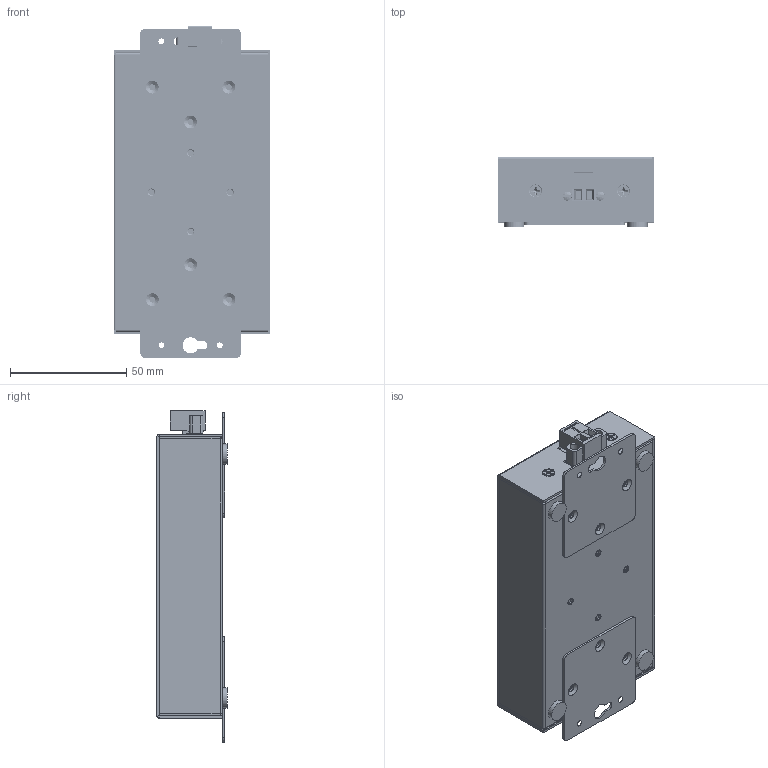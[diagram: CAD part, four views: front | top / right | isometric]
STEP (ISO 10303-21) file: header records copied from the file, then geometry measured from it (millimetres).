
FILE_DESCRIPTION(/* description */ (''),/* implementation_level */ '2;1');
FILE_NAME(/* name */ 'C:/Users/Leo/Desktop/AnyplaceUSB-H6C/ANYPLACEUSB-H6C v2.step',/* time_stamp */ '2021-05-10T15:17:13-04:00',/* author */ (''),/* organization */ (''),/* preprocessor_version */ 'ST-DEVELOPER v18.1',/* originating_system */ 'Autodesk Translation Framework v10.6.0.1341',/* authorisation */ '');
FILE_SCHEMA (('AUTOMOTIVE_DESIGN { 1 0 10303 214 3 1 1 }'));
Products named in the file (77): ANYPLACEUSB-H6C; Board; Component3; 93090A547; Component4; Port Doble USB 2.0 v1; Port Doble USB 2.0 v1_1; Housing1; Housing; Housing2; Housing4; Shielding2; Shielding; pin1; pin4; pin3; pin2; pin5; pin6; LED1CG-43AB1 2LeD v4; 6611124864; 6611124480; 6662586176; 6662585792; 6662585408; LED1CG-43AB1 2LeD v4_1; 6611124864_1; Sphere; 6611124480_1; Sphere (1); 6662586176_1; Extruded; 6662585792_1; Cylinder; 6662585408_1; Cylinder (1); 3mm_LED v1; 3mm_LED; led_energy (1); led_pin.1.1.1 (1)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
Assembly tree (143 placements, depth 5):
  ANYPLACEUSB-H6C
    Board
    93090A547  x4
    Component3
    Component4
    Port Doble USB 2.0 v1
      pin1  x5
      pin4  x5
      pin3  x2
      pin2  x2
      pin5  x2
      pin6  x2
      Housing1
      Housing
      Housing2
      Housing4
      Shielding2
      Shielding
    Port Doble USB 2.0 v1_1
      pin1  x5
      pin4  x5
      pin3  x2
      pin2  x2
      pin5  x2
      pin6  x2
      Housing1
      Housing
      Housing2
      Housing4
      Shielding2
      Shielding
    LED1CG-43AB1 2LeD v4
      6611124864
        Sphere
      6611124480
        Sphere (1)
      6662586176
        Extruded
      6662585792
        Cylinder
      6662585408
        Cylinder (1)
    LED1CG-43AB1 2LeD v4_1
      6611124864_1
        Sphere
      6611124480_1
        Sphere (1)
      6662586176_1
        Extruded
      6662585792_1
        Cylinder
      6662585408_1
        Cylinder (1)
    3mm_LED v1
      3mm_LED
        led_energy (1)
          led_energy
        led_pin.1.1.1 (1)
          led_pin.1.1.1
        led_pin.2.1 (1)
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Bounding box: 67.56 x 30.25 x 142.98 mm (x, y, z)
Volume: 69454.7 mm3; surface area: 131138.8 mm2
Topology: 7 solids, 117 shells, 7321 faces, 20864 edges, 13507 vertices
Faces by surface type: plane 5366, cylinder 1748, cone 98, bspline 76, sphere 25, torus 8
Full cylindrical faces by diameter (mm): 0.5 x4, 1.399 x44, 1.6 x2, 1.7 x4, 1.75 x12, 1.854 x42, 2 x2, 2.35 x16, 2.529 x24, 2.7 x2, 2.998 x3, 3 x32, 3.5 x6, 3.643 x3, 3.86 x2, 4 x2, 5.4 x4, 8.75 x4
Entity records: 249228 total; most frequent: CARTESIAN_POINT 55453, ORIENTED_EDGE 41248, DIRECTION 38394, EDGE_CURVE 20624, LINE 16540, VECTOR 16540, VERTEX_POINT 13360, AXIS2_PLACEMENT_3D 10927
